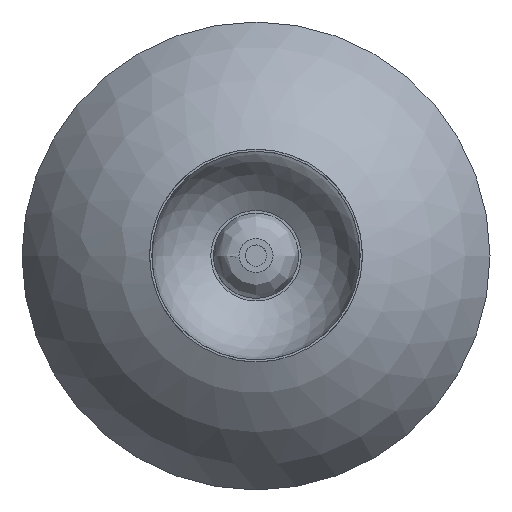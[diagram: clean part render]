
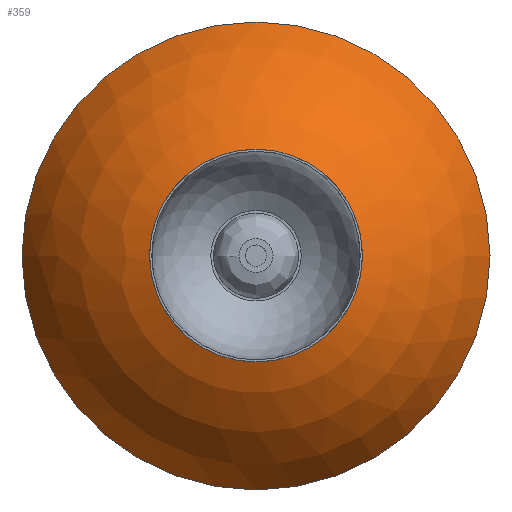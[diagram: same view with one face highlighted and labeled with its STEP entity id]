
A CAD part, top view. The second image highlights one B-rep face of the part: STEP entity #359.
In plain terms, the highlighted spherical face has radius 121.341 mm.
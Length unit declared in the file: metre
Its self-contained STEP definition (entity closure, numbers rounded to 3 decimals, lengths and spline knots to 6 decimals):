
#359 = ADVANCED_FACE( '', ( #455, #456 ), #457, .T. );
#455 = FACE_OUTER_BOUND( '', #628, .T. );
#456 = FACE_OUTER_BOUND( '', #629, .T. );
#457 = SPHERICAL_SURFACE( '', #630, 0.121341 );
#628 = EDGE_LOOP( '', ( #877 ) );
#629 = EDGE_LOOP( '', ( #878 ) );
#630 = AXIS2_PLACEMENT_3D( '', #879, #880, #881 );
#877 = ORIENTED_EDGE( '', *, *, #970, .F. );
#878 = ORIENTED_EDGE( '', *, *, #950, .T. );
#879 = CARTESIAN_POINT( '', ( 0., 0., -0.051221 ) );
#880 = DIRECTION( '', ( 0., 0., -1. ) );
#881 = DIRECTION( '', ( -1., 0., 0. ) );
#950 = EDGE_CURVE( '', #1061, #1061, #1062, .T. );
#970 = EDGE_CURVE( '', #1093, #1093, #1094, .T. );
#1061 = VERTEX_POINT( '', #1345 );
#1062 = CIRCLE( '', #1346, 0.0215 );
#1093 = VERTEX_POINT( '', #1471 );
#1094 = CIRCLE( '', #1472, 0.11 );
#1345 = CARTESIAN_POINT( '', ( -0.0215, 0., 0.0682 ) );
#1346 = AXIS2_PLACEMENT_3D( '', #1558, #1559, #1560 );
#1471 = CARTESIAN_POINT( '', ( -0.11, 0., 0. ) );
#1472 = AXIS2_PLACEMENT_3D( '', #1593, #1594, #1595 );
#1558 = CARTESIAN_POINT( '', ( 0., 0., 0.0682 ) );
#1559 = DIRECTION( '', ( 0., 0., -1. ) );
#1560 = DIRECTION( '', ( -1., 0., 0. ) );
#1593 = CARTESIAN_POINT( '', ( 0., 0., 0. ) );
#1594 = DIRECTION( '', ( 0., 0., -1. ) );
#1595 = DIRECTION( '', ( -1., 0., 0. ) );
